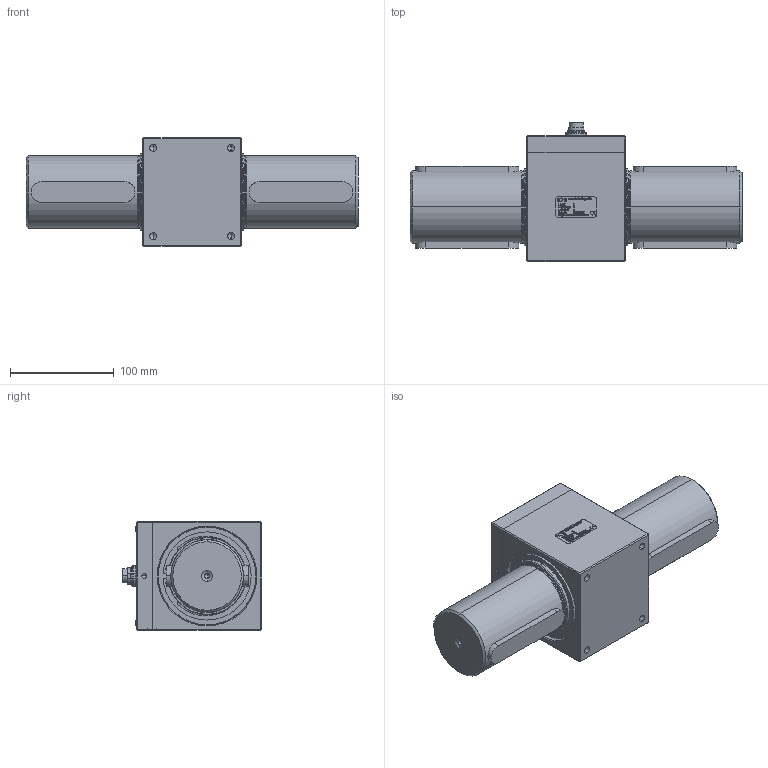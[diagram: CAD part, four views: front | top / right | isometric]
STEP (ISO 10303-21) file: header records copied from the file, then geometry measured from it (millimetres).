
FILE_DESCRIPTION (( 'STEP AP214' ), '1' );
FILE_NAME ('DRVL-V-K.STEP', '2020-08-28T07:40:05', ( '' ), ( '' ), 'SwSTEP 2.0', 'SolidWorks 2020', '' );
FILE_SCHEMA (( 'AUTOMOTIVE_DESIGN' ));
Length unit declared in the file: millimetre
Products named in the file (1): DRVL-V-K
Bounding box: 320 x 134.1 x 105.22 mm (x, y, z)
Volume: 1760157.6 mm3; surface area: 308251.3 mm2
Topology: 31 solids, 63 shells, 3235 faces, 8773 edges, 5770 vertices
Faces by surface type: plane 1473, bspline 924, cylinder 398, torus 154, cone 144, sphere 142
Entity records: 176508 total; most frequent: CARTESIAN_POINT 66720, ORIENTED_EDGE 16850, DIRECTION 12288, EDGE_CURVE 8425, VERTEX_POINT 5578, VECTOR 4798, LINE 4798, AXIS2_PLACEMENT_3D 3745
